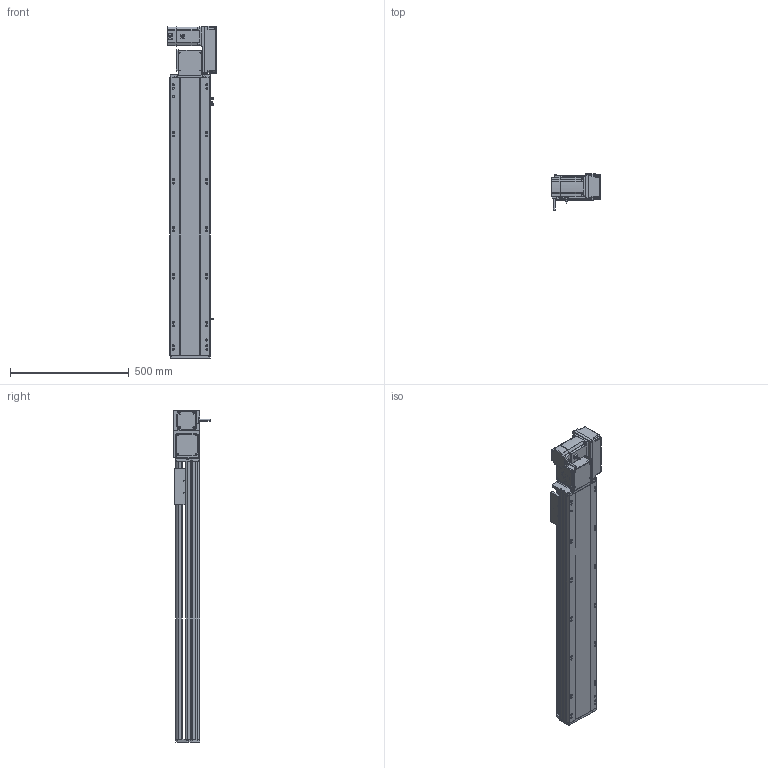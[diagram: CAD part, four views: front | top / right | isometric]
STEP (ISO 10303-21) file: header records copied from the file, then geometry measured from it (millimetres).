
FILE_DESCRIPTION (( 'STEP AP214' ), '1' );
FILE_NAME ('RTB17S-XX-900-R-M75-C4.STEP', '2025-12-12T01:34:21', ( '' ), ( '' ), 'SwSTEP 2.0', 'SolidWorks 2018', '' );
FILE_SCHEMA (( 'AUTOMOTIVE_DESIGN' ));
Length unit declared in the file: millimetre
Products named in the file (15): RTB17S-賑釱^RTB17S-XX-XX-R-M75-C4; RTB17S-XX-900-R-M75-C4; RTH13-BL-012覜茼え俋离^RTB17S-賑釱_RTB17S-XX-XX-R-M75-C4; RTB22S-GY-017P^RTB17S-R-々湍釱蚾饜-750W_RTB17S-XX-XX-R-M75-C4; RTB17S-L-001-耜醱啣^RTB17S-XX-XX-R-M75-C4; RTB22S-GY-005P^RTB17S-R-々湍釱蚾饜-750W_RTB17S-XX-XX-R-M75-C4; RTB17S-L-004-賑釱^RTB17S-賑釱_RTB17S-XX-XX-R-M75-C4; RTB17S-L-014-T20-P75--々湍釱^RTB17S-R-々湍釱蚾饜-750W_RTB17S-XX-XX-R-M75-C4; RTB22S-GY-008-M75--萇儂啣^RTB17S-R-々湍釱蚾饜-750W_RTB17S-XX-XX-R-M75-C4; EE672^RTB17S-XX-XX-R-M75-C4; RTB17S-L-007奻裔^RTB17S-XX-XX-R-M75-C4; 750W萇儂^RTB17S-XX-XX-R-M75-C4; RTB17-R-011菁釱^RTB17S-XX-XX-R-M75-C4; RTB17S-R-々湍釱蚾饜-750W^RTB17S-XX-XX-R-M75-C4; RTB22S-GY-018P^RTB17S-R-々湍釱蚾饜-750W_RTB17S-XX-XX-R-M75-C4
Assembly tree (17 placements, depth 3):
  RTB17S-XX-900-R-M75-C4
    RTB17-R-011菁釱^RTB17S-XX-XX-R-M75-C4
    EE672^RTB17S-XX-XX-R-M75-C4  x3
    RTB17S-L-001-耜醱啣^RTB17S-XX-XX-R-M75-C4
    RTB17S-賑釱^RTB17S-XX-XX-R-M75-C4
      RTB17S-L-004-賑釱^RTB17S-賑釱_RTB17S-XX-XX-R-M75-C4
      RTH13-BL-012覜茼え俋离^RTB17S-賑釱_RTB17S-XX-XX-R-M75-C4
    RTB17S-L-007奻裔^RTB17S-XX-XX-R-M75-C4
    750W萇儂^RTB17S-XX-XX-R-M75-C4
    RTB17S-R-々湍釱蚾饜-750W^RTB17S-XX-XX-R-M75-C4
      RTB17S-L-014-T20-P75--々湍釱^RTB17S-R-々湍釱蚾饜-750W_RTB17S-XX-XX-R-M75-C4
      RTB22S-GY-005P^RTB17S-R-々湍釱蚾饜-750W_RTB17S-XX-XX-R-M75-C4
      RTB22S-GY-017P^RTB17S-R-々湍釱蚾饜-750W_RTB17S-XX-XX-R-M75-C4  x2
      RTB22S-GY-008-M75--萇儂啣^RTB17S-R-々湍釱蚾饜-750W_RTB17S-XX-XX-R-M75-C4
      RTB22S-GY-018P^RTB17S-R-々湍釱蚾饜-750W_RTB17S-XX-XX-R-M75-C4
Bounding box: 207.4 x 152.7 x 1399 mm (x, y, z)
Volume: 11573402.1 mm3; surface area: 1948985.5 mm2
Topology: 17 solids, 17 shells, 2089 faces, 5782 edges, 3734 vertices
Faces by surface type: plane 970, cylinder 703, bspline 294, cone 110, sphere 8, torus 4
Entity records: 58102 total; most frequent: CARTESIAN_POINT 17046, ORIENTED_EDGE 8408, DIRECTION 7862, EDGE_CURVE 4204, AXIS2_PLACEMENT_3D 2754, VERTEX_POINT 2738, VECTOR 2354, LINE 2354
